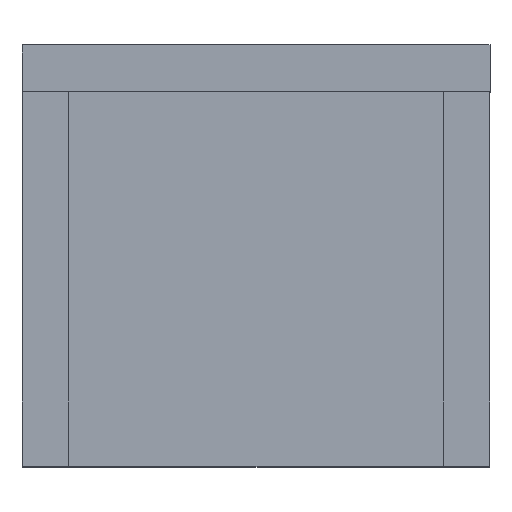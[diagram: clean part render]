
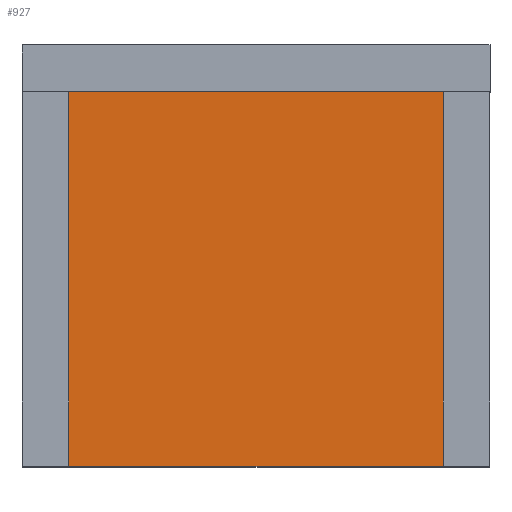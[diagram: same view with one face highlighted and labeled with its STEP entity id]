
A CAD part, top view. The second image highlights one B-rep face of the part: STEP entity #927.
In plain terms, the highlighted planar face has unit normal (0, 0, 1) as drawn and (0, -1, 0) by its records, which use the part's own axes.
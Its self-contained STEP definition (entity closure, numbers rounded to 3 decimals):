
#77=FACE_OUTER_BOUND('',#133,.T.);
#133=EDGE_LOOP('',(#693,#694,#695,#696));
#209=LINE('',#1481,#329);
#215=LINE('',#1492,#335);
#216=LINE('',#1495,#336);
#217=LINE('',#1496,#337);
#329=VECTOR('',#1222,10.);
#335=VECTOR('',#1230,10.);
#336=VECTOR('',#1233,10.);
#337=VECTOR('',#1234,10.);
#437=VERTEX_POINT('',#1478);
#438=VERTEX_POINT('',#1480);
#442=VERTEX_POINT('',#1490);
#443=VERTEX_POINT('',#1494);
#529=EDGE_CURVE('',#437,#438,#209,.T.);
#535=EDGE_CURVE('',#437,#442,#215,.T.);
#536=EDGE_CURVE('',#443,#442,#216,.T.);
#537=EDGE_CURVE('',#438,#443,#217,.T.);
#693=ORIENTED_EDGE('',*,*,#535,.T.);
#694=ORIENTED_EDGE('',*,*,#536,.F.);
#695=ORIENTED_EDGE('',*,*,#537,.F.);
#696=ORIENTED_EDGE('',*,*,#529,.F.);
#871=PLANE('',#1095);
#927=ADVANCED_FACE('',(#77),#871,.T.);
#1095=AXIS2_PLACEMENT_3D('',#1493,#1231,#1232);
#1222=DIRECTION('',(-1.,0.,0.));
#1230=DIRECTION('',(0.,0.,1.));
#1231=DIRECTION('center_axis',(0.,-1.,0.));
#1232=DIRECTION('ref_axis',(1.,0.,0.));
#1233=DIRECTION('',(1.,0.,0.));
#1234=DIRECTION('',(0.,0.,1.));
#1478=CARTESIAN_POINT('',(2.5,-32.5,-20.));
#1480=CARTESIAN_POINT('',(-37.5,-32.5,-20.));
#1481=CARTESIAN_POINT('',(-37.5,-32.5,-20.));
#1490=CARTESIAN_POINT('',(2.5,-32.5,20.));
#1492=CARTESIAN_POINT('',(2.5,-32.5,0.));
#1493=CARTESIAN_POINT('Origin',(-37.5,-32.5,0.));
#1494=CARTESIAN_POINT('',(-37.5,-32.5,20.));
#1495=CARTESIAN_POINT('',(-37.5,-32.5,20.));
#1496=CARTESIAN_POINT('',(-37.5,-32.5,0.));
